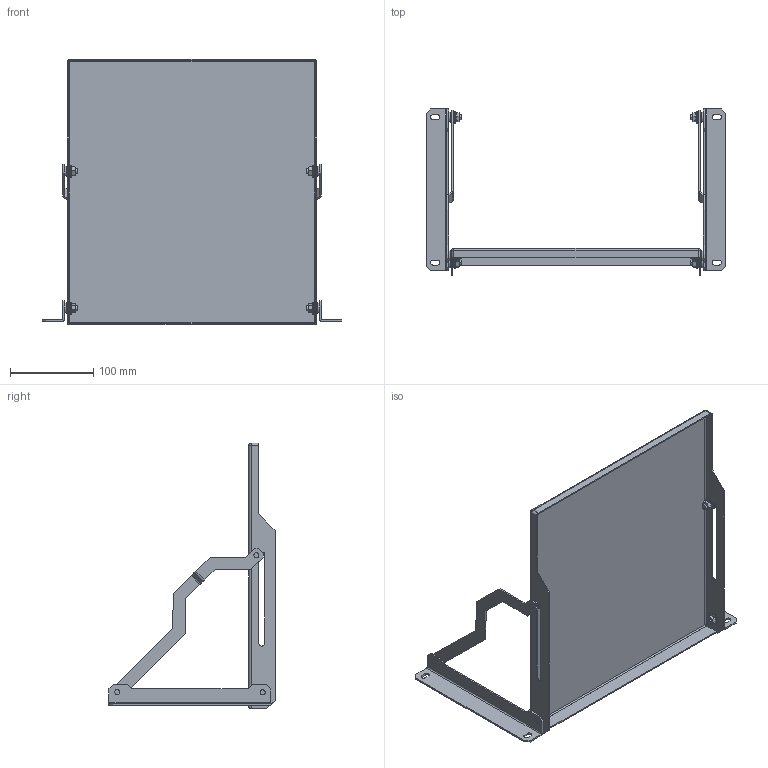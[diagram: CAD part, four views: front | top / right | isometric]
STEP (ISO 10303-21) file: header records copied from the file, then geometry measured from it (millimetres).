
FILE_DESCRIPTION (( 'STEP AP214' ), '1' );
FILE_NAME ('SH 50 D Ïîäñòàâêà (ïîäíÿòàÿ).STEP', '2025-04-04T07:55:23', ( '' ), ( '' ), 'SwSTEP 2.0', 'SolidWorks 2022', '' );
FILE_SCHEMA (( 'AUTOMOTIVE_DESIGN' ));
Length unit declared in the file: millimetre
Products named in the file (4): SH 50 D Подставка (поднятая); Зеркально отразитьSH D Кронштейн подставки v1; SH 50 D СБ Подставка v1; SH D Кронштейн подставки v1
Assembly tree (3 placements, depth 2):
  SH 50 D Подставка (поднятая)
    SH 50 D СБ Подставка v1
    SH D Кронштейн подставки v1
    Зеркально отразитьSH D Кронштейн подставки v1
Bounding box: 361 x 200.02 x 320 mm (x, y, z)
Volume: 234253.6 mm3; surface area: 302586.3 mm2
Topology: 35 solids, 35 shells, 772 faces, 1673 edges, 979 vertices
Faces by surface type: cylinder 248, plane 244, cone 228, bspline 36, torus 12, sphere 4
Entity records: 26391 total; most frequent: CARTESIAN_POINT 5142, DIRECTION 3625, ORIENTED_EDGE 3338, EDGE_CURVE 1669, AXIS2_PLACEMENT_3D 1410, VERTEX_POINT 979, EDGE_LOOP 864, VECTOR 805
